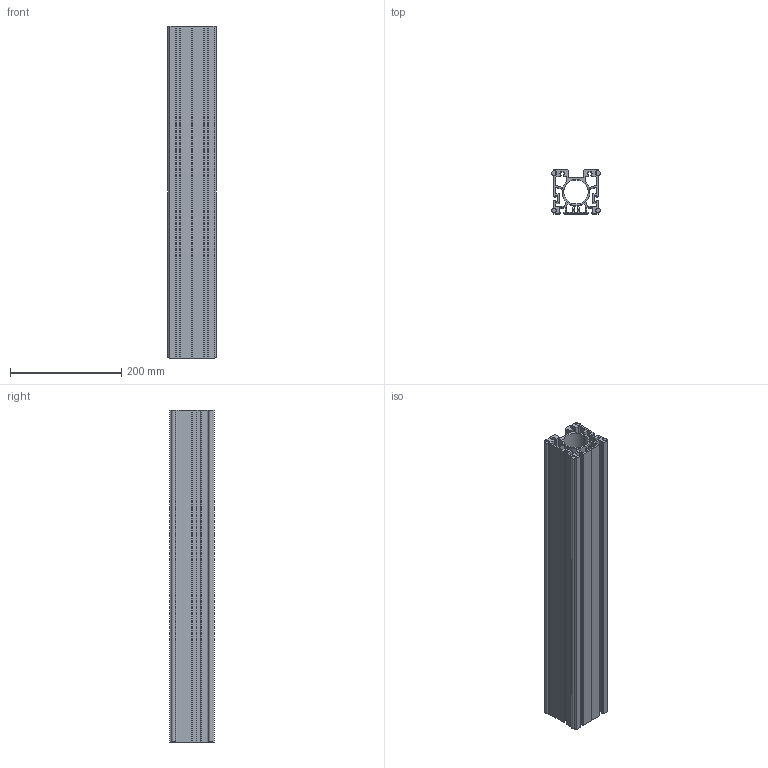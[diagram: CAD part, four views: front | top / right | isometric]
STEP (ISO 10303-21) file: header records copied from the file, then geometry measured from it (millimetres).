
FILE_DESCRIPTION (( 'STEP AP203' ), '1' );
FILE_NAME ('_-_MLF 4 598 mm lang.step', '2005-09-01T12:45:57', ( ' ' ), ( ' ' ), 'SwSTEP 2.0', 'SolidWorks 2005187', '' );
FILE_SCHEMA (( 'CONFIG_CONTROL_DESIGN' ));
Length unit declared in the file: millimetre
Products named in the file (1): _-_MLF 4  598 mm lang
Bounding box: 87.6 x 80 x 598 mm (x, y, z)
Volume: 1377400 mm3; surface area: 742157 mm2
Topology: 1 solids, 1 shells, 248 faces, 762 edges, 500 vertices
Faces by surface type: plane 174, cylinder 74
Entity records: 8575 total; most frequent: ORIENTED_EDGE 1524, CARTESIAN_POINT 1511, DIRECTION 1408, EDGE_CURVE 762, VECTOR 614, LINE 614, VERTEX_POINT 500, AXIS2_PLACEMENT_3D 397
